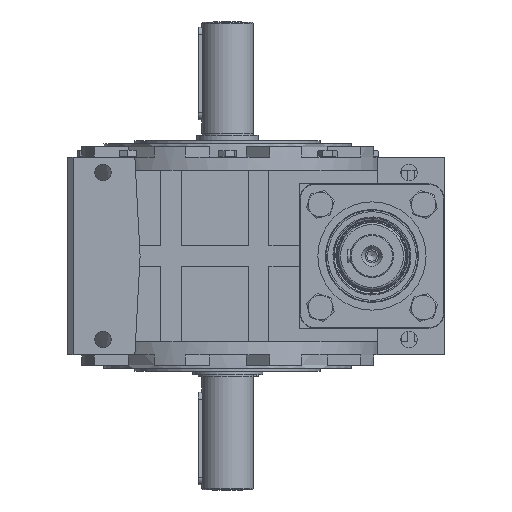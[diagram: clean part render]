
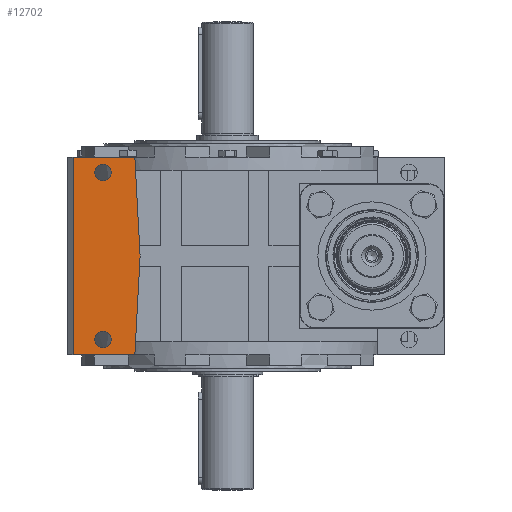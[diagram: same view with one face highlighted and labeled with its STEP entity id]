
A CAD part, left-side view. The second image highlights one B-rep face of the part: STEP entity #12702.
In plain terms, the highlighted planar face has unit normal (-1, 0, 0).
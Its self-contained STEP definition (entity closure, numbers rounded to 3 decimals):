
#474 = CIRCLE ( 'NONE', #14539, 8. ) ;
#1022 = LINE ( 'NONE', #13472, #1115 ) ;
#1115 = VECTOR ( 'NONE', #15629, 1000. ) ;
#1178 = AXIS2_PLACEMENT_3D ( 'NONE', #5431, #10039, #26046 ) ;
#1362 = AXIS2_PLACEMENT_3D ( 'NONE', #8597, #24590, #10906 ) ;
#2157 = DIRECTION ( 'NONE',  ( 0., 1., 0. ) ) ;
#2196 = EDGE_CURVE ( 'NONE', #22042, #3103, #9329, .T. ) ;
#3103 = VERTEX_POINT ( 'NONE', #19194 ) ;
#4197 = ORIENTED_EDGE ( 'NONE', *, *, #28539, .F. ) ;
#5431 = CARTESIAN_POINT ( 'NONE',  ( -152.5, 90., -96. ) ) ;
#6421 = CARTESIAN_POINT ( 'NONE',  ( -152.5, 84.969, 0. ) ) ;
#6610 = VECTOR ( 'NONE', #23677, 1000. ) ;
#6707 = LINE ( 'NONE', #23578, #6610 ) ;
#7194 = EDGE_CURVE ( 'NONE', #11275, #3103, #12091, .T. ) ;
#7973 = CARTESIAN_POINT ( 'NONE',  ( -152.5, 90., 96. ) ) ;
#8597 = CARTESIAN_POINT ( 'NONE',  ( -152.5, 121., -81. ) ) ;
#9278 = VECTOR ( 'NONE', #2157, 1000. ) ;
#9329 = LINE ( 'NONE', #18134, #9278 ) ;
#9386 = CARTESIAN_POINT ( 'NONE',  ( -152.5, 121., 81. ) ) ;
#10039 = DIRECTION ( 'NONE',  ( 1., 0., 0. ) ) ;
#10731 = FACE_BOUND ( 'NONE', #25685, .T. ) ;
#10906 = DIRECTION ( 'NONE',  ( 0., 1., 0. ) ) ;
#10921 = FACE_BOUND ( 'NONE', #20307, .T. ) ;
#10972 = VERTEX_POINT ( 'NONE', #6421 ) ;
#11145 = FACE_OUTER_BOUND ( 'NONE', #13738, .T. ) ;
#11275 = VERTEX_POINT ( 'NONE', #19019 ) ;
#11705 = DIRECTION ( 'NONE',  ( 0., 1., 0. ) ) ;
#11965 = CARTESIAN_POINT ( 'NONE',  ( -152.5, 150., -96. ) ) ;
#12091 = LINE ( 'NONE', #11965, #12492 ) ;
#12151 = ORIENTED_EDGE ( 'NONE', *, *, #25111, .F. ) ;
#12174 = EDGE_CURVE ( 'NONE', #23068, #11275, #15762, .T. ) ;
#12492 = VECTOR ( 'NONE', #27933, 1000. ) ;
#12702 = ADVANCED_FACE ( 'NONE', ( #10921, #10731, #11145 ), #18967, .F. ) ;
#13472 = CARTESIAN_POINT ( 'NONE',  ( -152.5, 90., -96. ) ) ;
#13738 = EDGE_LOOP ( 'NONE', ( #27367, #15506, #19694, #4197, #16365 ) ) ;
#14169 = CARTESIAN_POINT ( 'NONE',  ( -152.5, 129., 81. ) ) ;
#14539 = AXIS2_PLACEMENT_3D ( 'NONE', #9386, #25377, #11705 ) ;
#15506 = ORIENTED_EDGE ( 'NONE', *, *, #7194, .T. ) ;
#15569 = VECTOR ( 'NONE', #21506, 1000. ) ;
#15629 = DIRECTION ( 'NONE',  ( 0., 0.052, -0.999 ) ) ;
#15762 = LINE ( 'NONE', #19209, #15569 ) ;
#16365 = ORIENTED_EDGE ( 'NONE', *, *, #22412, .F. ) ;
#16795 = ORIENTED_EDGE ( 'NONE', *, *, #18555, .F. ) ;
#18134 = CARTESIAN_POINT ( 'NONE',  ( -152.5, 90., -96. ) ) ;
#18555 = EDGE_CURVE ( 'NONE', #28834, #28834, #474, .T. ) ;
#18967 = PLANE ( 'NONE',  #1178 ) ;
#19019 = CARTESIAN_POINT ( 'NONE',  ( -152.5, 150., 96. ) ) ;
#19194 = CARTESIAN_POINT ( 'NONE',  ( -152.5, 150., -96. ) ) ;
#19209 = CARTESIAN_POINT ( 'NONE',  ( -152.5, 90., 96. ) ) ;
#19694 = ORIENTED_EDGE ( 'NONE', *, *, #2196, .F. ) ;
#20307 = EDGE_LOOP ( 'NONE', ( #12151 ) ) ;
#20621 = CIRCLE ( 'NONE', #1362, 8. ) ;
#21506 = DIRECTION ( 'NONE',  ( 0., 1., 0. ) ) ;
#22042 = VERTEX_POINT ( 'NONE', #28111 ) ;
#22412 = EDGE_CURVE ( 'NONE', #23068, #10972, #6707, .T. ) ;
#22590 = VERTEX_POINT ( 'NONE', #28488 ) ;
#23068 = VERTEX_POINT ( 'NONE', #7973 ) ;
#23578 = CARTESIAN_POINT ( 'NONE',  ( -152.5, 84.969, 0. ) ) ;
#23677 = DIRECTION ( 'NONE',  ( 0., -0.052, -0.999 ) ) ;
#24590 = DIRECTION ( 'NONE',  ( -1., 0., 0. ) ) ;
#25111 = EDGE_CURVE ( 'NONE', #22590, #22590, #20621, .T. ) ;
#25377 = DIRECTION ( 'NONE',  ( -1., 0., 0. ) ) ;
#25685 = EDGE_LOOP ( 'NONE', ( #16795 ) ) ;
#26046 = DIRECTION ( 'NONE',  ( 0., -1., 0. ) ) ;
#27367 = ORIENTED_EDGE ( 'NONE', *, *, #12174, .T. ) ;
#27933 = DIRECTION ( 'NONE',  ( 0., 0., -1. ) ) ;
#28111 = CARTESIAN_POINT ( 'NONE',  ( -152.5, 90., -96. ) ) ;
#28488 = CARTESIAN_POINT ( 'NONE',  ( -152.5, 129., -81. ) ) ;
#28539 = EDGE_CURVE ( 'NONE', #10972, #22042, #1022, .T. ) ;
#28834 = VERTEX_POINT ( 'NONE', #14169 ) ;
